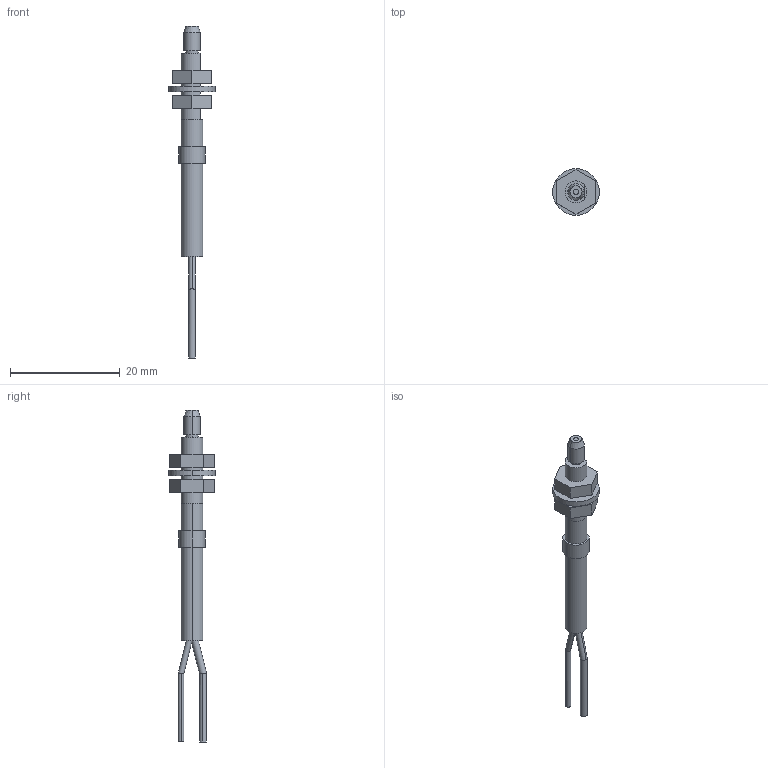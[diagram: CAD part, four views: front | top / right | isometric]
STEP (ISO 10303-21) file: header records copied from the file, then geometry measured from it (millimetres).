
FILE_DESCRIPTION (( 'STEP AP203' ), '1' );
FILE_NAME ('FD-G4.STEP', '2005-09-04T09:34:15', ( '川島良英' ), ( ' ' ), 'SwSTEP 2.0', 'SolidWorks 2004251', '' );
FILE_SCHEMA (( 'CONFIG_CONTROL_DESIGN' ));
Length unit declared in the file: millimetre
Products named in the file (1): FD-G4
Bounding box: 8.5 x 8.5 x 60.48 mm (x, y, z)
Volume: 761.5 mm3; surface area: 1307.7 mm2
Topology: 9 solids, 9 shells, 69 faces, 142 edges, 94 vertices
Faces by surface type: plane 34, cylinder 33, cone 2
Entity records: 1905 total; most frequent: CARTESIAN_POINT 354, DIRECTION 318, ORIENTED_EDGE 284, EDGE_CURVE 142, AXIS2_PLACEMENT_3D 122, VERTEX_POINT 94, EDGE_LOOP 78, VECTOR 74
